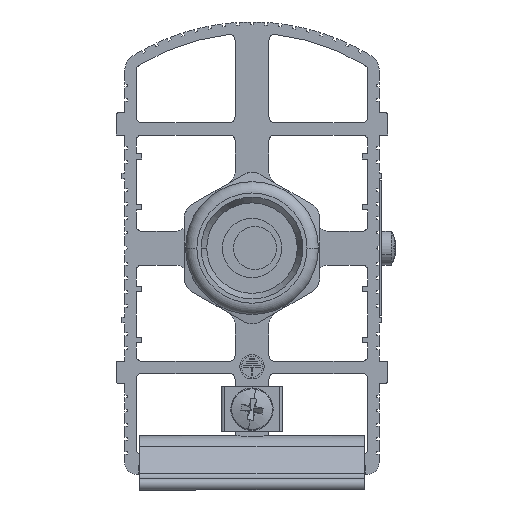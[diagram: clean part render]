
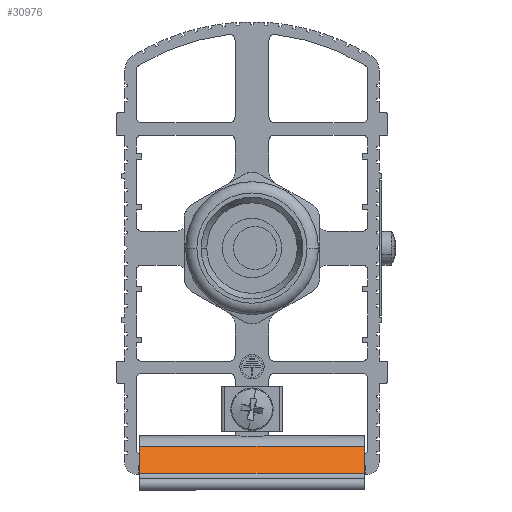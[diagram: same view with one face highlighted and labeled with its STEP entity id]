
A CAD part, front view. The second image highlights one B-rep face of the part: STEP entity #30976.
In plain terms, the highlighted planar face has unit normal (0, -0.866, 0.5).
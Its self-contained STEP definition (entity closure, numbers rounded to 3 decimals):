
#1204 = DIRECTION ( 'NONE',  ( 0., -0.5, -0.866 ) ) ;
#1826 = CARTESIAN_POINT ( 'NONE',  ( -19.9, -3.291, -35.1 ) ) ;
#2257 = CARTESIAN_POINT ( 'NONE',  ( 19.9, -6.004, -39.8 ) ) ;
#2900 = FACE_OUTER_BOUND ( 'NONE', #29438, .T. ) ;
#3378 = DIRECTION ( 'NONE',  ( 0., -0.5, -0.866 ) ) ;
#3455 = VERTEX_POINT ( 'NONE', #1826 ) ;
#5474 = CARTESIAN_POINT ( 'NONE',  ( -19.9, -6.004, -39.8 ) ) ;
#7568 = LINE ( 'NONE', #25477, #31293 ) ;
#8483 = VECTOR ( 'NONE', #14917, 1000. ) ;
#8505 = LINE ( 'NONE', #5474, #27574 ) ;
#8722 = ORIENTED_EDGE ( 'NONE', *, *, #28332, .T. ) ;
#10427 = LINE ( 'NONE', #2257, #8483 ) ;
#10964 = DIRECTION ( 'NONE',  ( 0., 0.866, -0.5 ) ) ;
#13784 = VECTOR ( 'NONE', #20149, 1000. ) ;
#14917 = DIRECTION ( 'NONE',  ( -1., 0., 0. ) ) ;
#15611 = AXIS2_PLACEMENT_3D ( 'NONE', #25617, #10964, #3378 ) ;
#17766 = CARTESIAN_POINT ( 'NONE',  ( 19.9, -3.291, -35.1 ) ) ;
#18000 = CARTESIAN_POINT ( 'NONE',  ( 19.9, -6.004, -39.8 ) ) ;
#18134 = VERTEX_POINT ( 'NONE', #19967 ) ;
#19375 = ORIENTED_EDGE ( 'NONE', *, *, #27145, .F. ) ;
#19967 = CARTESIAN_POINT ( 'NONE',  ( 19.9, -3.291, -35.1 ) ) ;
#20149 = DIRECTION ( 'NONE',  ( -1., 0., 0. ) ) ;
#23494 = LINE ( 'NONE', #17766, #13784 ) ;
#23914 = VERTEX_POINT ( 'NONE', #28993 ) ;
#25477 = CARTESIAN_POINT ( 'NONE',  ( 19.9, -6.004, -39.8 ) ) ;
#25617 = CARTESIAN_POINT ( 'NONE',  ( 19.9, -6.004, -39.8 ) ) ;
#27145 = EDGE_CURVE ( 'NONE', #29989, #23914, #10427, .T. ) ;
#27574 = VECTOR ( 'NONE', #30717, 1000. ) ;
#27787 = ORIENTED_EDGE ( 'NONE', *, *, #31215, .F. ) ;
#28329 = ORIENTED_EDGE ( 'NONE', *, *, #30082, .T. ) ;
#28332 = EDGE_CURVE ( 'NONE', #18134, #3455, #23494, .T. ) ;
#28993 = CARTESIAN_POINT ( 'NONE',  ( -19.9, -6.004, -39.8 ) ) ;
#29438 = EDGE_LOOP ( 'NONE', ( #28329, #19375, #27787, #8722 ) ) ;
#29951 = PLANE ( 'NONE',  #15611 ) ;
#29989 = VERTEX_POINT ( 'NONE', #18000 ) ;
#30082 = EDGE_CURVE ( 'NONE', #3455, #23914, #8505, .T. ) ;
#30717 = DIRECTION ( 'NONE',  ( 0., -0.5, -0.866 ) ) ;
#30976 = ADVANCED_FACE ( 'NONE', ( #2900 ), #29951, .F. ) ;
#31215 = EDGE_CURVE ( 'NONE', #18134, #29989, #7568, .T. ) ;
#31293 = VECTOR ( 'NONE', #1204, 1000. ) ;
